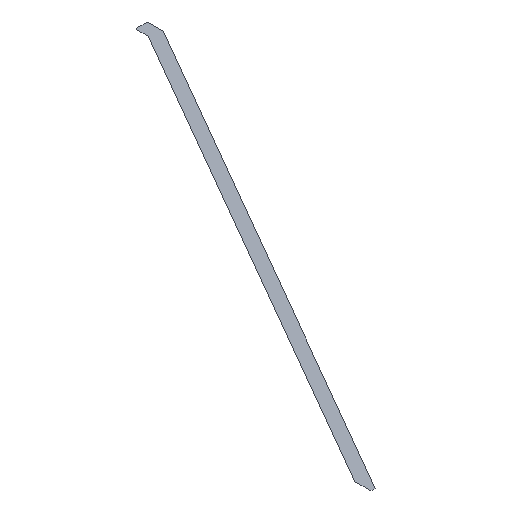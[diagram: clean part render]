
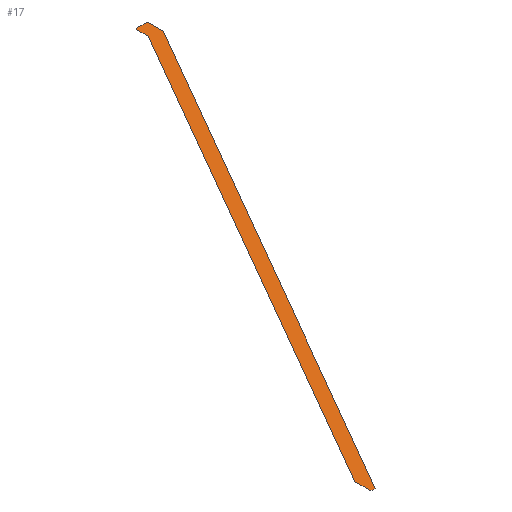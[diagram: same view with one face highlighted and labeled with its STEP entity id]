
A CAD part, isometric view. The second image highlights one B-rep face of the part: STEP entity #17.
In plain terms, the highlighted planar face has unit normal (0, 0, 1).
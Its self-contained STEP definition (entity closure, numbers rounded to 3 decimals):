
#17 = ADVANCED_FACE('',(#18),#32,.T.);
#18 = FACE_BOUND('',#19,.T.);
#19 = EDGE_LOOP('',(#20,#43,#59,#75,#91,#107,#123,#139,#155,#171));
#20 = ORIENTED_EDGE('',*,*,#21,.T.);
#21 = EDGE_CURVE('',#22,#24,#26,.T.);
#22 = VERTEX_POINT('',#23);
#23 = CARTESIAN_POINT('',(1025.019,1079.,0.));
#24 = VERTEX_POINT('',#25);
#25 = CARTESIAN_POINT('',(1996.03,2759.717,0.)
  );
#26 = SURFACE_CURVE('',#27,(#31),.PCURVE_S1.);
#27 = LINE('',#28,#29);
#28 = CARTESIAN_POINT('',(1025.019,1079.,0.));
#29 = VECTOR('',#30,1.);
#30 = DIRECTION('',(0.5,0.866,0.));
#31 = PCURVE('',#32,#37);
#32 = PLANE('',#33);
#33 = AXIS2_PLACEMENT_3D('',#34,#35,#36);
#34 = CARTESIAN_POINT('',(1504.834,1950.014,
    0.));
#35 = DIRECTION('',(0.,0.,1.));
#36 = DIRECTION('',(1.,0.,0.));
#37 = DEFINITIONAL_REPRESENTATION('',(#38),#42);
#38 = LINE('',#39,#40);
#39 = CARTESIAN_POINT('',(-479.815,-871.014));
#40 = VECTOR('',#41,1.);
#41 = DIRECTION('',(0.5,0.866));
#42 = ( GEOMETRIC_REPRESENTATION_CONTEXT(2) 
PARAMETRIC_REPRESENTATION_CONTEXT() REPRESENTATION_CONTEXT('2D SPACE',''
  ) );
#43 = ORIENTED_EDGE('',*,*,#44,.T.);
#44 = EDGE_CURVE('',#24,#45,#47,.T.);
#45 = VERTEX_POINT('',#46);
#46 = CARTESIAN_POINT('',(1996.,2814.,0.));
#47 = SURFACE_CURVE('',#48,(#52),.PCURVE_S1.);
#48 = LINE('',#49,#50);
#49 = CARTESIAN_POINT('',(1996.03,2759.717,0.)
  );
#50 = VECTOR('',#51,1.);
#51 = DIRECTION('',(-0.001,1.,0.));
#52 = PCURVE('',#32,#53);
#53 = DEFINITIONAL_REPRESENTATION('',(#54),#58);
#54 = LINE('',#55,#56);
#55 = CARTESIAN_POINT('',(491.196,809.703));
#56 = VECTOR('',#57,1.);
#57 = DIRECTION('',(-0.001,1.));
#58 = ( GEOMETRIC_REPRESENTATION_CONTEXT(2) 
PARAMETRIC_REPRESENTATION_CONTEXT() REPRESENTATION_CONTEXT('2D SPACE',''
  ) );
#59 = ORIENTED_EDGE('',*,*,#60,.T.);
#60 = EDGE_CURVE('',#45,#61,#63,.T.);
#61 = VERTEX_POINT('',#62);
#62 = CARTESIAN_POINT('',(1961.,2814.,0.));
#63 = SURFACE_CURVE('',#64,(#68),.PCURVE_S1.);
#64 = LINE('',#65,#66);
#65 = CARTESIAN_POINT('',(1996.,2814.,0.));
#66 = VECTOR('',#67,1.);
#67 = DIRECTION('',(-1.,0.,0.));
#68 = PCURVE('',#32,#69);
#69 = DEFINITIONAL_REPRESENTATION('',(#70),#74);
#70 = LINE('',#71,#72);
#71 = CARTESIAN_POINT('',(491.166,863.986));
#72 = VECTOR('',#73,1.);
#73 = DIRECTION('',(-1.,0.));
#74 = ( GEOMETRIC_REPRESENTATION_CONTEXT(2) 
PARAMETRIC_REPRESENTATION_CONTEXT() REPRESENTATION_CONTEXT('2D SPACE',''
  ) );
#75 = ORIENTED_EDGE('',*,*,#76,.T.);
#76 = EDGE_CURVE('',#61,#77,#79,.T.);
#77 = VERTEX_POINT('',#78);
#78 = CARTESIAN_POINT('',(1956.,2809.,0.));
#79 = SURFACE_CURVE('',#80,(#84),.PCURVE_S1.);
#80 = LINE('',#81,#82);
#81 = CARTESIAN_POINT('',(1961.,2814.,0.));
#82 = VECTOR('',#83,1.);
#83 = DIRECTION('',(-0.707,-0.707,0.));
#84 = PCURVE('',#32,#85);
#85 = DEFINITIONAL_REPRESENTATION('',(#86),#90);
#86 = LINE('',#87,#88);
#87 = CARTESIAN_POINT('',(456.166,863.986));
#88 = VECTOR('',#89,1.);
#89 = DIRECTION('',(-0.707,-0.707));
#90 = ( GEOMETRIC_REPRESENTATION_CONTEXT(2) 
PARAMETRIC_REPRESENTATION_CONTEXT() REPRESENTATION_CONTEXT('2D SPACE',''
  ) );
#91 = ORIENTED_EDGE('',*,*,#92,.T.);
#92 = EDGE_CURVE('',#77,#93,#95,.T.);
#93 = VERTEX_POINT('',#94);
#94 = CARTESIAN_POINT('',(1956.,2770.39,0.));
#95 = SURFACE_CURVE('',#96,(#100),.PCURVE_S1.);
#96 = LINE('',#97,#98);
#97 = CARTESIAN_POINT('',(1956.,2809.,0.));
#98 = VECTOR('',#99,1.);
#99 = DIRECTION('',(0.,-1.,0.));
#100 = PCURVE('',#32,#101);
#101 = DEFINITIONAL_REPRESENTATION('',(#102),#106);
#102 = LINE('',#103,#104);
#103 = CARTESIAN_POINT('',(451.166,858.986));
#104 = VECTOR('',#105,1.);
#105 = DIRECTION('',(0.,-1.));
#106 = ( GEOMETRIC_REPRESENTATION_CONTEXT(2) 
PARAMETRIC_REPRESENTATION_CONTEXT() REPRESENTATION_CONTEXT('2D SPACE',''
  ) );
#107 = ORIENTED_EDGE('',*,*,#108,.T.);
#108 = EDGE_CURVE('',#93,#109,#111,.T.);
#109 = VERTEX_POINT('',#110);
#110 = CARTESIAN_POINT('',(1007.248,1128.195,0.
    ));
#111 = SURFACE_CURVE('',#112,(#116),.PCURVE_S1.);
#112 = LINE('',#113,#114);
#113 = CARTESIAN_POINT('',(1956.,2770.39,0.));
#114 = VECTOR('',#115,1.);
#115 = DIRECTION('',(-0.5,-0.866,0.));
#116 = PCURVE('',#32,#117);
#117 = DEFINITIONAL_REPRESENTATION('',(#118),#122);
#118 = LINE('',#119,#120);
#119 = CARTESIAN_POINT('',(451.166,820.376));
#120 = VECTOR('',#121,1.);
#121 = DIRECTION('',(-0.5,-0.866));
#122 = ( GEOMETRIC_REPRESENTATION_CONTEXT(2) 
PARAMETRIC_REPRESENTATION_CONTEXT() REPRESENTATION_CONTEXT('2D SPACE',''
  ) );
#123 = ORIENTED_EDGE('',*,*,#124,.T.);
#124 = EDGE_CURVE('',#109,#125,#127,.T.);
#125 = VERTEX_POINT('',#126);
#126 = CARTESIAN_POINT('',(1010.246,1126.287,
    0.));
#127 = SURFACE_CURVE('',#128,(#132),.PCURVE_S1.);
#128 = LINE('',#129,#130);
#129 = CARTESIAN_POINT('',(1007.248,1128.195,0.
    ));
#130 = VECTOR('',#131,1.);
#131 = DIRECTION('',(0.844,-0.537,0.));
#132 = PCURVE('',#32,#133);
#133 = DEFINITIONAL_REPRESENTATION('',(#134),#138);
#134 = LINE('',#135,#136);
#135 = CARTESIAN_POINT('',(-497.586,-821.819));
#136 = VECTOR('',#137,1.);
#137 = DIRECTION('',(0.844,-0.537));
#138 = ( GEOMETRIC_REPRESENTATION_CONTEXT(2) 
PARAMETRIC_REPRESENTATION_CONTEXT() REPRESENTATION_CONTEXT('2D SPACE',''
  ) );
#139 = ORIENTED_EDGE('',*,*,#140,.T.);
#140 = EDGE_CURVE('',#125,#141,#143,.T.);
#141 = VERTEX_POINT('',#142);
#142 = CARTESIAN_POINT('',(1010.246,1084.,0.));
#143 = SURFACE_CURVE('',#144,(#148),.PCURVE_S1.);
#144 = LINE('',#145,#146);
#145 = CARTESIAN_POINT('',(1010.246,1126.287,
    0.));
#146 = VECTOR('',#147,1.);
#147 = DIRECTION('',(0.,-1.,0.));
#148 = PCURVE('',#32,#149);
#149 = DEFINITIONAL_REPRESENTATION('',(#150),#154);
#150 = LINE('',#151,#152);
#151 = CARTESIAN_POINT('',(-494.588,-823.727));
#152 = VECTOR('',#153,1.);
#153 = DIRECTION('',(0.,-1.));
#154 = ( GEOMETRIC_REPRESENTATION_CONTEXT(2) 
PARAMETRIC_REPRESENTATION_CONTEXT() REPRESENTATION_CONTEXT('2D SPACE',''
  ) );
#155 = ORIENTED_EDGE('',*,*,#156,.T.);
#156 = EDGE_CURVE('',#141,#157,#159,.T.);
#157 = VERTEX_POINT('',#158);
#158 = CARTESIAN_POINT('',(1015.246,1079.,0.));
#159 = SURFACE_CURVE('',#160,(#164),.PCURVE_S1.);
#160 = LINE('',#161,#162);
#161 = CARTESIAN_POINT('',(1010.246,1084.,0.));
#162 = VECTOR('',#163,1.);
#163 = DIRECTION('',(0.707,-0.707,0.));
#164 = PCURVE('',#32,#165);
#165 = DEFINITIONAL_REPRESENTATION('',(#166),#170);
#166 = LINE('',#167,#168);
#167 = CARTESIAN_POINT('',(-494.588,-866.014));
#168 = VECTOR('',#169,1.);
#169 = DIRECTION('',(0.707,-0.707));
#170 = ( GEOMETRIC_REPRESENTATION_CONTEXT(2) 
PARAMETRIC_REPRESENTATION_CONTEXT() REPRESENTATION_CONTEXT('2D SPACE',''
  ) );
#171 = ORIENTED_EDGE('',*,*,#172,.T.);
#172 = EDGE_CURVE('',#157,#22,#173,.T.);
#173 = SURFACE_CURVE('',#174,(#178),.PCURVE_S1.);
#174 = LINE('',#175,#176);
#175 = CARTESIAN_POINT('',(1015.246,1079.,0.));
#176 = VECTOR('',#177,1.);
#177 = DIRECTION('',(1.,0.,0.));
#178 = PCURVE('',#32,#179);
#179 = DEFINITIONAL_REPRESENTATION('',(#180),#184);
#180 = LINE('',#181,#182);
#181 = CARTESIAN_POINT('',(-489.588,-871.014));
#182 = VECTOR('',#183,1.);
#183 = DIRECTION('',(1.,0.));
#184 = ( GEOMETRIC_REPRESENTATION_CONTEXT(2) 
PARAMETRIC_REPRESENTATION_CONTEXT() REPRESENTATION_CONTEXT('2D SPACE',''
  ) );
